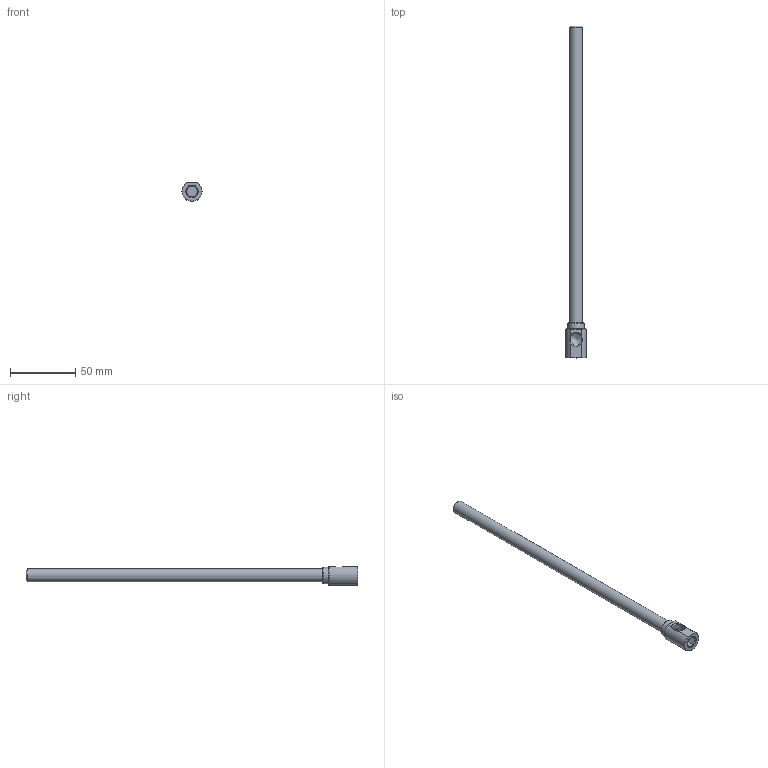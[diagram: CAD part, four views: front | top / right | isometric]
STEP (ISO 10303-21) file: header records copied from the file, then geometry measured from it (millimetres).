
FILE_DESCRIPTION(/* description */ (''),/* implementation_level */ '2;1');
FILE_NAME(/* name */ 'C:/Users/drich/Desktop/EKL18 X 10 v2.step',/* time_stamp */ '2019-11-18T14:40:21-06:00',/* author */ (''),/* organization */ (''),/* preprocessor_version */ 'ST-DEVELOPER v18',/* originating_system */ 'Autodesk Translation Framework v8.12.0.6',/* authorisation */ '');
FILE_SCHEMA (('AUTOMOTIVE_DESIGN { 1 0 10303 214 3 1 1 }'));
Length unit declared in the file: inch
Products named in the file (2): EKL18 X 10; EKL18 X 10_1
Assembly tree (1 placements, depth 2):
  EKL18 X 10
    EKL18 X 10_1
Bounding box: 15.49 x 254 x 14.48 mm (x, y, z)
Volume: 13124.9 mm3; surface area: 13738.5 mm2
Topology: 1 solids, 1 shells, 30 faces, 80 edges, 55 vertices
Faces by surface type: plane 16, cone 8, cylinder 6
Full cylindrical faces by diameter (mm): 6.35 x1, 9.004 x1, 9.398 x1, 9.794 x1, 12.7 x1
Entity records: 1047 total; most frequent: CARTESIAN_POINT 256, ORIENTED_EDGE 158, DIRECTION 151, EDGE_CURVE 79, AXIS2_PLACEMENT_3D 60, VERTEX_POINT 55, EDGE_LOOP 36, LINE 31
